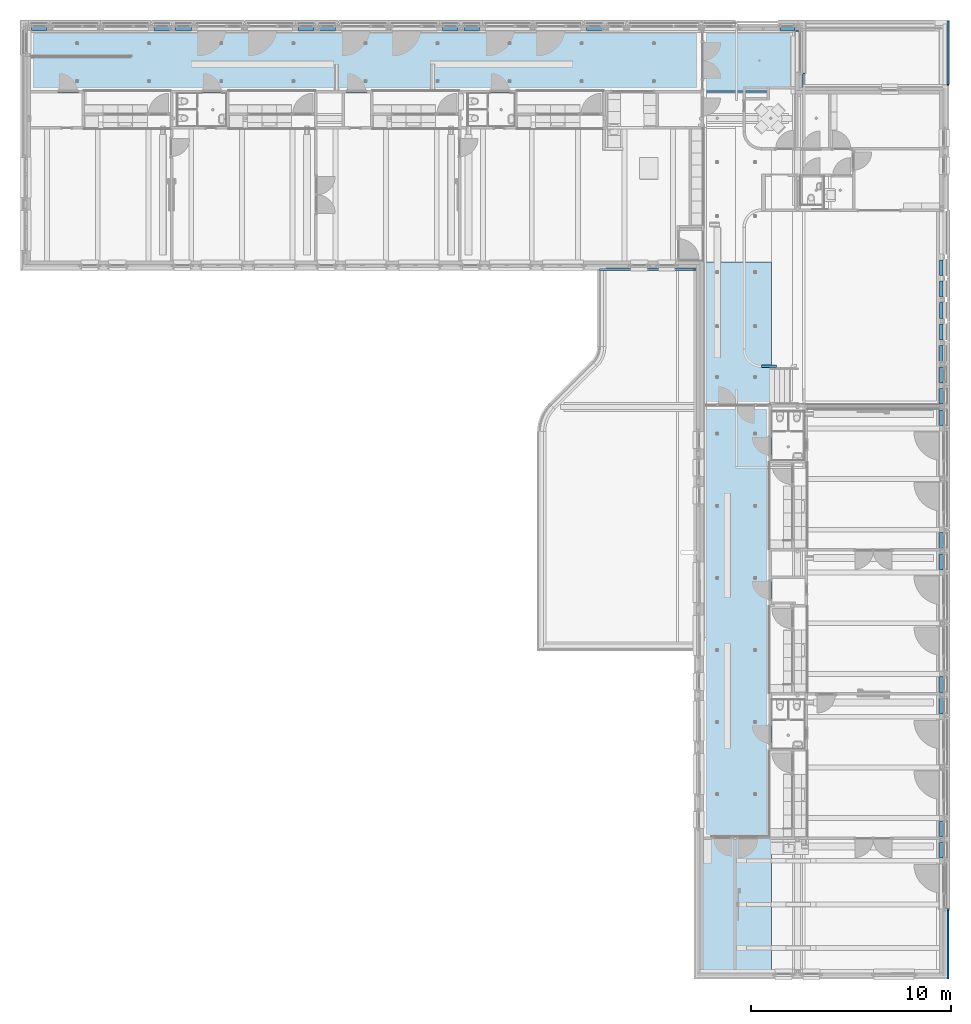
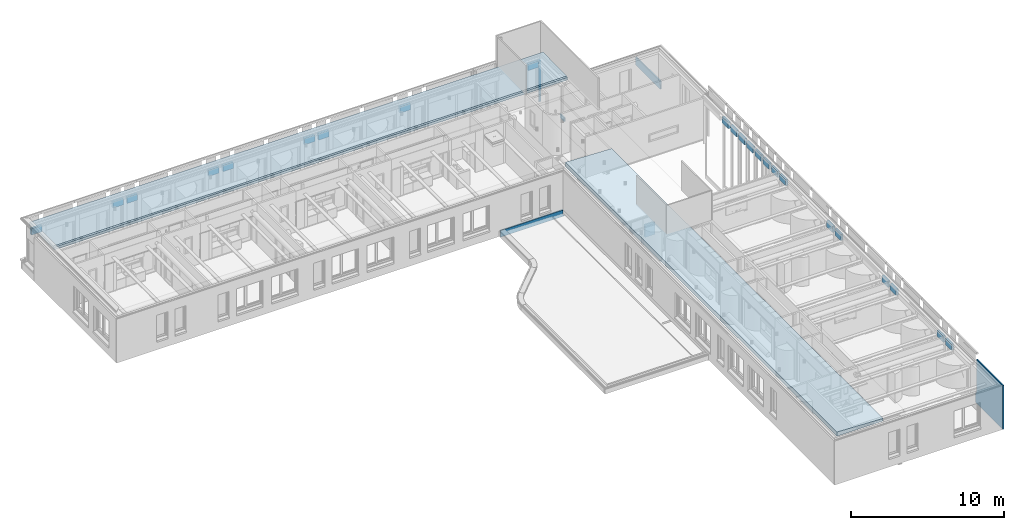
# One storey, part 60 of 128: 29 walls, 2 roofs, 1 opening.
"""IFC2X3 building model written with IfcOpenShell, lengths in millimetres."""

from ifc_helpers import new_model, entity, si_unit, converted_unit, derived_unit, direction, frame, frame_2d, origin, place, context, subcontext, project, spatial, rectangle, extrude, faceted_brep, material, layer, layer_set, layer_usage, type_object, element, save


model = new_model("IFC2X3")

# Units and contexts
model_context = context("Model", 3, precision=0.01, world=origin(), true_north=direction((6.123031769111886e-17, 1.0)))
body_context = subcontext(model_context, "Body", "Model", "MODEL_VIEW")
ifc_project = project(units=[si_unit("LENGTHUNIT", "METRE", prefix="MILLI"), si_unit("AREAUNIT", "SQUARE_METRE"), si_unit("VOLUMEUNIT", "CUBIC_METRE"), converted_unit("PLANEANGLEUNIT", "DEGREE", entity("IfcRatioMeasure", 0.017453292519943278), si_unit("PLANEANGLEUNIT", "RADIAN"), dimensions=[0, 0, 0, 0, 0, 0, 0]), si_unit("MASSUNIT", "GRAM", prefix="KILO"), derived_unit("MASSDENSITYUNIT", [(si_unit("MASSUNIT", "GRAM", prefix="KILO"), 1), (si_unit("LENGTHUNIT", "METRE"), -3)]), derived_unit("IONCONCENTRATIONUNIT", [(si_unit("MASSUNIT", "GRAM", prefix="KILO"), 1), (si_unit("LENGTHUNIT", "METRE"), -3)]), derived_unit("MOMENTOFINERTIAUNIT", [(si_unit("LENGTHUNIT", "METRE"), 4)]), si_unit("TIMEUNIT", "SECOND"), si_unit("FREQUENCYUNIT", "HERTZ"), si_unit("THERMODYNAMICTEMPERATUREUNIT", "DEGREE_CELSIUS"), derived_unit("THERMALTRANSMITTANCEUNIT", [(si_unit("MASSUNIT", "GRAM", prefix="KILO"), 1), (si_unit("THERMODYNAMICTEMPERATUREUNIT", "KELVIN"), -1), (si_unit("TIMEUNIT", "SECOND"), -3)]), derived_unit("THERMALCONDUCTANCEUNIT", [(si_unit("MASSUNIT", "GRAM", prefix="KILO"), 1), (si_unit("THERMODYNAMICTEMPERATUREUNIT", "KELVIN"), -1), (si_unit("TIMEUNIT", "SECOND"), -3), (si_unit("LENGTHUNIT", "METRE"), 1)]), derived_unit("VOLUMETRICFLOWRATEUNIT", [(si_unit("LENGTHUNIT", "METRE"), 3), (si_unit("TIMEUNIT", "SECOND"), -1)]), derived_unit("MASSFLOWRATEUNIT", [(si_unit("MASSUNIT", "GRAM", prefix="KILO"), 1), (si_unit("TIMEUNIT", "SECOND"), -1)]), derived_unit("ROTATIONALFREQUENCYUNIT", [(si_unit("TIMEUNIT", "SECOND"), -1)]), si_unit("ELECTRICCURRENTUNIT", "AMPERE"), si_unit("ELECTRICVOLTAGEUNIT", "VOLT"), si_unit("POWERUNIT", "WATT"), si_unit("FORCEUNIT", "NEWTON", prefix="KILO"), si_unit("ILLUMINANCEUNIT", "LUX"), si_unit("LUMINOUSFLUXUNIT", "LUMEN"), si_unit("LUMINOUSINTENSITYUNIT", "CANDELA"), derived_unit("USERDEFINED", [(si_unit("MASSUNIT", "GRAM", prefix="KILO"), -1), (si_unit("LENGTHUNIT", "METRE"), -2), (si_unit("TIMEUNIT", "SECOND"), 3), (si_unit("LUMINOUSFLUXUNIT", "LUMEN"), 1)]), derived_unit("USERDEFINED", [(si_unit("MASSUNIT", "GRAM", prefix="KILO"), 1), (si_unit("TIMEUNIT", "SECOND"), -3), (si_unit("LENGTHUNIT", "METRE"), 3), (si_unit("ELECTRICCURRENTUNIT", "AMPERE"), -2)]), derived_unit("SOUNDPOWERUNIT", [(si_unit("MASSUNIT", "GRAM", prefix="KILO"), 1), (si_unit("TIMEUNIT", "SECOND"), -3), (si_unit("LENGTHUNIT", "METRE"), 2)]), derived_unit("SOUNDPRESSUREUNIT", [(si_unit("MASSUNIT", "GRAM", prefix="KILO"), 1), (si_unit("LENGTHUNIT", "METRE"), -1), (si_unit("TIMEUNIT", "SECOND"), -2)]), derived_unit("LINEARVELOCITYUNIT", [(si_unit("LENGTHUNIT", "METRE"), 1), (si_unit("TIMEUNIT", "SECOND"), -1)]), si_unit("PRESSUREUNIT", "PASCAL"), derived_unit("USERDEFINED", [(si_unit("MASSUNIT", "GRAM", prefix="KILO"), 1), (si_unit("LENGTHUNIT", "METRE"), -2), (si_unit("TIMEUNIT", "SECOND"), -2)]), derived_unit("LINEARFORCEUNIT", [(si_unit("MASSUNIT", "GRAM", prefix="KILO"), 1), (si_unit("TIMEUNIT", "SECOND"), -2)]), derived_unit("PLANARFORCEUNIT", [(si_unit("MASSUNIT", "GRAM", prefix="KILO"), 1), (si_unit("LENGTHUNIT", "METRE"), -1), (si_unit("TIMEUNIT", "SECOND"), -2)]), derived_unit("SPECIFICHEATCAPACITYUNIT", [(si_unit("THERMODYNAMICTEMPERATUREUNIT", "KELVIN"), -1), (si_unit("LENGTHUNIT", "METRE"), 2), (si_unit("TIMEUNIT", "SECOND"), -2)]), derived_unit("HEATINGVALUEUNIT", [(si_unit("LENGTHUNIT", "METRE"), 2), (si_unit("TIMEUNIT", "SECOND"), -2)]), derived_unit("VAPORPERMEABILITYUNIT", [(si_unit("LENGTHUNIT", "METRE"), -1), (si_unit("TIMEUNIT", "SECOND"), 1)]), derived_unit("DYNAMICVISCOSITYUNIT", [(si_unit("MASSUNIT", "GRAM", prefix="KILO"), 1), (si_unit("TIMEUNIT", "SECOND"), -1), (si_unit("LENGTHUNIT", "METRE"), -1)]), derived_unit("THERMALEXPANSIONCOEFFICIENTUNIT", [(si_unit("THERMODYNAMICTEMPERATUREUNIT", "KELVIN"), -1)]), derived_unit("MODULUSOFELASTICITYUNIT", [(si_unit("MASSUNIT", "GRAM", prefix="KILO"), 1), (si_unit("LENGTHUNIT", "METRE"), -1), (si_unit("TIMEUNIT", "SECOND"), -2)]), derived_unit("ISOTHERMALMOISTURECAPACITYUNIT", [(si_unit("LENGTHUNIT", "METRE"), 3), (si_unit("MASSUNIT", "GRAM", prefix="KILO"), -1)]), derived_unit("MOISTUREDIFFUSIVITYUNIT", [(si_unit("TIMEUNIT", "SECOND"), -1), (si_unit("LENGTHUNIT", "METRE"), 2)])], contexts=[model_context])

# Site, building, storey
site_placement = place(None, frame((0.0, 300.0, 0.0)))
site = spatial("IfcSite", under=ifc_project, at=site_placement, Name="<Kadastrale nummers>", CompositionType="ELEMENT")
building_placement = place(site_placement, origin())
building = spatial("IfcBuilding", under=site, at=building_placement, CompositionType="ELEMENT")
storey_placement = place(building_placement, frame((0.0, 0.0, 3560.0000331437)))
storey = spatial("IfcBuildingStorey", under=building, at=storey_placement, Name="01 eerste verdieping", CompositionType="ELEMENT", Elevation=3560.0000331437)

# Walls
ifc_material_1 = material(Name="ISR_Metselwerk")
ifc_layer_1 = layer(ifc_material_1, 100.0)
ifc_layer_set_1 = layer_set([ifc_layer_1], Name="Basic Wall:21_DAT_metselwerk_100")
wall_type_1 = type_object("IfcWallType", Name="Basic Wall:21_DAT_metselwerk_100", PredefinedType="STANDARD", material=ifc_layer_set_1)
wall_1_placement = place(storey_placement, frame((48925.0, 2324.998623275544, 90.00000187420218), z_axis=(0.0, 0.0, 1.0), x_axis=(0.0, 1.0, 0.0)))
element("IfcWall", 1, at=wall_1_placement, inside=storey, type_object=wall_type_1, Name="Basic Wall:21_DAT_metselwerk_100", ObjectType="Basic Wall:21_DAT_metselwerk_100", context=body_context, shape_type="Brep", body=[
    faceted_brep([(0.0, -50.0, 0.0), (100.0, -50.0, 0.0), (3525.0013767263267, -50.0, 0.0), (3525.0013767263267, -50.0, 625.0), (3525.0013767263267, -50.0, 800.0), (3435.0013767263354, -50.0, 800.0), (3435.0013767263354, -50.0, 3500.0), (100.0, -50.0, 3500.0), (0.0, -50.0, 3500.0), (3525.0013767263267, 50.0, 0.0), (100.0, 50.0, 0.0), (0.0, 50.0, 0.0), (0.0, 50.0, 3500.0), (100.0, 50.0, 3500.0), (3435.0013767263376, 50.0, 3500.0), (3435.0013767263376, 50.0, 800.0), (3525.0013767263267, 50.0, 800.0), (3525.0013767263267, 50.0, 625.0)], [[[0, 1, 2, 3, 4, 5, 6, 7, 8]], [[9, 10, 11, 12, 13, 14, 15, 16, 17]], [[2, 1, 0, 11, 10, 9]], [[8, 7, 6, 14, 13, 12]], [[0, 8, 12, 11]], [[2, 9, 17, 16, 4, 3]], [[5, 4, 16, 15]], [[6, 5, 15, 14]]]),
])
wall_2_placement = place(storey_placement, frame((48925.0, 46950.0, 90.00000187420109), z_axis=(0.0, 0.0, 1.0), x_axis=(0.0, 1.0, 0.0)))
element("IfcWall", 2, at=wall_2_placement, inside=storey, type_object=wall_type_1, Name="Basic Wall:21_DAT_metselwerk_100", ObjectType="Basic Wall:21_DAT_metselwerk_100", context=body_context, shape_type="Brep", body=[
    faceted_brep([(0.0, -50.0, 0.0), (3225.0, -50.0, 0.0), (3225.0, -50.0, 625.0), (50.0, -50.0, 625.0), (50.0, -50.0, 299.99996498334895), (0.0, -50.0, 299.99996498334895), (0.0, 50.0, 0.0), (0.0, 50.0, 299.99996498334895), (50.0, 50.0, 299.99996498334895), (50.0, 50.0, 625.0), (3125.0, 50.0, 625.0), (3225.0, 50.0, 625.0), (3225.0, 50.0, 0.0), (3125.0, 50.0, 0.0)], [[[0, 1, 2, 3, 4, 5]], [[6, 7, 8, 9, 10, 11, 12, 13]], [[1, 0, 6, 13, 12]], [[3, 2, 11, 10, 9]], [[2, 1, 12, 11]], [[0, 5, 7, 6]], [[4, 8, 7, 5]], [[4, 3, 9, 8]]]),
])
ifc_material_2 = material(Name="ISR_Gips")
ifc_layer_2 = layer(ifc_material_2, 1.0)
ifc_material_3 = material(Name="ISR_Binnenwand")
ifc_layer_3 = layer(ifc_material_3, 123.0)
ifc_layer_4 = layer(ifc_material_2, 1.0)
ifc_layer_set_2 = layer_set([ifc_layer_2, ifc_layer_3, ifc_layer_4], Name="Basic Wall:22_DAT_binnenwand_125")
wall_type_2 = type_object("IfcWallType", Name="Basic Wall:22_DAT_binnenwand_125", PredefinedType="STANDARD", material=ifc_layer_set_2)
wall_3_placement = place(storey_placement, frame((40360.0, 32932.49999999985, 90.00000187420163), z_axis=(0.0, 0.0, 1.0), x_axis=(-1.0, 0.0, 0.0)))
element("IfcWall", 3, at=wall_3_placement, inside=storey, type_object=wall_type_2, Name="Basic Wall:22_DAT_binnenwand_125", ObjectType="Basic Wall:22_DAT_binnenwand_125", context=body_context, shape_type="Brep", body=[
    faceted_brep([(0.0, -62.50000000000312, 0.0), (52.14919277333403, -62.50000000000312, 0.0), (760.0, -62.50000000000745, 0.0), (760.0, -62.50000000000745, 1000.0), (214.26406002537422, -62.50000000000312, 1000.0), (167.65194200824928, -62.50000000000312, 996.3567283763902), (122.17196137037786, -62.50000000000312, 985.5154030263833), (78.92875759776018, -62.50000000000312, 967.7393432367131), (38.97264227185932, -62.50000000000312, 943.4603024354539), (0.0, -62.50000000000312, 915.3999999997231), (214.26406002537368, 62.499999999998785, 1000.0), (760.0, 62.49999999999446, 1000.0), (760.0, 62.49999999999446, 0.0), (0.0, 62.499999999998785, 0.0), (0.0, 62.499999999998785, 915.3999999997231), (38.972642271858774, 62.499999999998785, 943.4603024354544), (78.92875759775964, 62.499999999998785, 967.7393432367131), (122.17196137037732, 62.499999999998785, 985.5154030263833), (167.65194200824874, 62.499999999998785, 996.3567283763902), (760.0, -37.50000000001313, 0.0)], [[[0, 1, 2, 3, 4, 5, 6, 7, 8, 9]], [[10, 11, 12, 13, 14, 15, 16, 17, 18]], [[1, 0, 13, 12, 19, 2]], [[3, 2, 19, 12, 11]], [[4, 3, 11, 10]], [[0, 9, 14, 13]], [[18, 17, 6, 5]], [[18, 5, 4, 10]], [[16, 15, 8, 7]], [[16, 7, 6, 17]], [[9, 8, 15, 14]]]),
])
ifc_material_4 = material(Name="DAT_Gasbeton")
ifc_layer_5 = layer(ifc_material_4, 100.0)
ifc_layer_set_3 = layer_set([ifc_layer_5], Name="Basic Wall:21_DAT_gasbeton_100")
ifc_layer_usage_1 = layer_usage(ifc_layer_set_3, "AXIS2", "POSITIVE", -50.0)
wall_type_3 = type_object("IfcWallType", Name="Basic Wall:21_DAT_gasbeton_100", PredefinedType="STANDARD", material=ifc_layer_set_3)
wall_4_placement = place(storey_placement, frame((41725.0, 47000.0, 0.0), z_axis=(0.0, 0.0, 1.0), x_axis=(0.0, 1.0, 0.0)))
element("IfcWallStandardCase", 4, at=wall_4_placement, inside=storey, type_object=wall_type_3, material=ifc_layer_usage_1, Name="Basic Wall:21_DAT_gasbeton_100", ObjectType="Basic Wall:21_DAT_gasbeton_100", context=body_context, shape_type="SweptSolid", body=[
    extrude(rectangle(XDim=565.9999999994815, YDim=99.9999999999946, at=frame_2d((282.99999999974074, 1.2612133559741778e-12), x_axis=(-1.0, 0.0))), origin(), (0.0, 0.0, 1.0), 290.0000000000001),
])
wall_5_placement = place(storey_placement, frame((31525.03691673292, 37775.0, 0.0)))
element("IfcWall", 5, at=wall_5_placement, inside=storey, type_object=wall_type_3, Name="Basic Wall:21_DAT_gasbeton_100", ObjectType="Basic Wall:21_DAT_gasbeton_100", context=body_context, shape_type="Brep", body=[
    faceted_brep([(0.0, -50.0, 514.9999668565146), (0.0, -50.0, 0.0), (4699.963083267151, -50.0, 0.0), (4799.96308326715, -50.0, 0.0), (4799.96308326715, -50.0, 90.00000187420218), (4699.963083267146, -50.0, 90.00000187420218), (4699.963083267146, -50.0, 514.9999668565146), (309.0, -50.0, 514.9999668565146), (200.0, -50.0, 514.9999668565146), (40.0, -50.0, 514.9999668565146), (0.0, 50.0, 0.0), (0.0, 50.0, 90.00000187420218), (0.0, 50.0, 514.9999668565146), (4699.963083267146, 50.0, 514.9999668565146), (4699.963083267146, 50.0, 90.00000187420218), (4799.963083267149, 50.0, 90.00000187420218), (4799.963083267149, 50.0, 0.0)], [[[0, 1, 2, 3, 4, 5, 6, 7, 8, 9]], [[10, 11, 12, 13, 14, 15, 16]], [[3, 2, 1, 10, 16]], [[0, 9, 8, 7, 6, 13, 12]], [[4, 3, 16, 15]], [[6, 5, 14, 13]], [[14, 5, 4, 15]], [[0, 12, 11, 10, 1]]]),
])

# Wall, opening
ifc_layer_6 = layer(ifc_material_2, 12.5)
ifc_layer_7 = layer(ifc_material_2, 12.5)
ifc_material_5 = material(Name="ISR_Dak_isolatie(198)")
ifc_layer_8 = layer(ifc_material_5, 140.0)
ifc_material_6 = material(Name="ISR_Multiplex")
ifc_layer_9 = layer(ifc_material_6, 10.0)
ifc_layer_set_4 = layer_set([ifc_layer_6, ifc_layer_7, ifc_layer_8, ifc_layer_9], Name="Basic Wall:21_DAT_Hekwerk 175")
ifc_layer_usage_2 = layer_usage(ifc_layer_set_4, "AXIS2", "POSITIVE", -87.5)
wall_type_4 = type_object("IfcWallType", Name="Basic Wall:21_DAT_Hekwerk 175", PredefinedType="STANDARD", material=ifc_layer_set_4)
wall_6_placement = place(storey_placement, frame((40516.0, 49787.49999999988, 2829.999966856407)))
wall_6 = element("IfcWallStandardCase", 6, at=wall_6_placement, inside=storey, type_object=wall_type_4, material=ifc_layer_usage_2, Name="Basic Wall:21_DAT_Hekwerk 175", ObjectType="Basic Wall:21_DAT_Hekwerk 175", context=body_context, shape_type="SweptSolid", body=[
    extrude(rectangle(XDim=772.9999999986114, YDim=175.00000000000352, at=frame_2d((386.4999999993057, -4.334310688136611e-12), x_axis=(1.0, 0.0))), origin(), (0.0, 0.0, 1.0), 500.0000350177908),
])
opening_placement = place(wall_6_placement, origin())
element("IfcOpeningElement", 7, at=opening_placement, cuts=wall_6, Name="Basic Wall:21_DAT_Hekwerk 175", ObjectType="Opening", context=body_context, shape_type="SweptSolid", body=[
    extrude(rectangle(XDim=1929.9999649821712, YDim=789.9999999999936, at=frame_2d((0.0, 5.684341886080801e-13), x_axis=(0.0, 1.0))), frame((378.0, -239.90000000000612, -964.9999824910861), z_axis=(0.0, 1.0, 0.0), x_axis=(-1.0, 0.0, 0.0)), (0.0, 0.0, 1.0), 479.80000000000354),
])

# Walls
wall_7_placement = place(storey_placement, frame((48587.500000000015, 10230.0, 2829.999966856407), z_axis=(0.0, 0.0, 1.0), x_axis=(0.0, -1.0, 0.0)))
element("IfcWallStandardCase", 8, at=wall_7_placement, inside=storey, type_object=wall_type_4, material=ifc_layer_usage_2, Name="Basic Wall:21_DAT_Hekwerk 175", ObjectType="Basic Wall:21_DAT_Hekwerk 175", context=body_context, shape_type="SweptSolid", body=[
    extrude(rectangle(XDim=790.0000000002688, YDim=174.99999999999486, at=frame_2d((395.0000000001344, 0.0), x_axis=(-1.0, 0.0))), origin(), (0.0, 0.0, 1.0), 500.000064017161),
])
for number, where, z_axis, x_axis, name in (
    (9, (48587.500000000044, 31830.0, 2829.999966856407), (0.0, 0.0, 1.0), (0.0, -1.0, 0.0), "Basic Wall:21_DAT_Hekwerk 175"),
    (10, (48587.500000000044, 30760.0, 2829.999966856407), (0.0, 0.0, 1.0), (0.0, -1.0, 0.0), "Basic Wall:21_DAT_Hekwerk 175"),
    (11, (48587.50000000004, 24630.0, 2829.999966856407), (0.0, 0.0, 1.0), (0.0, -1.0, 0.0), "Basic Wall:21_DAT_Hekwerk 175"),
    (12, (48587.50000000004, 23560.0, 2829.999966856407), (0.0, 0.0, 1.0), (0.0, -1.0, 0.0), "Basic Wall:21_DAT_Hekwerk 175"),
    (13, (48587.50000000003, 17430.0, 2829.999966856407), (0.0, 0.0, 1.0), (0.0, -1.0, 0.0), "Basic Wall:21_DAT_Hekwerk 175"),
    (14, (48587.50000000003, 16360.0, 2829.999966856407), (0.0, 0.0, 1.0), (0.0, -1.0, 0.0), "Basic Wall:21_DAT_Hekwerk 175"),
    (15, (48587.500000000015, 9160.0, 2829.999966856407), (0.0, 0.0, 1.0), (0.0, -1.0, 0.0), "Basic Wall:21_DAT_Hekwerk 175"),
):
    element("IfcWallStandardCase", number, at=place(storey_placement, frame(where, z_axis=z_axis, x_axis=x_axis)), inside=storey, type_object=wall_type_4, material=ifc_layer_usage_2, Name=name, ObjectType="Basic Wall:21_DAT_Hekwerk 175", context=body_context, shape_type="SweptSolid", body=[
        extrude(rectangle(XDim=790.0000000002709, YDim=174.99999999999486, at=frame_2d((395.00000000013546, 0.0), x_axis=(-1.0, 0.0))), origin(), (0.0, 0.0, 1.0), 500.000064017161),
    ])
for number, where, name in (
    (16, (30870.0, 49787.499999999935, 2829.999966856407), "Basic Wall:21_DAT_Hekwerk 175"),
    (17, (24740.0, 49787.49999999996, 2829.999966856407), "Basic Wall:21_DAT_Hekwerk 175"),
    (18, (23670.0, 49787.49999999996, 2829.999966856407), "Basic Wall:21_DAT_Hekwerk 175"),
    (19, (17540.0, 49787.499999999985, 2829.999966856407), "Basic Wall:21_DAT_Hekwerk 175"),
    (20, (16470.0, 49787.49999999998, 2829.999966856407), "Basic Wall:21_DAT_Hekwerk 175"),
    (21, (10340.0, 49787.500000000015, 2829.999966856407), "Basic Wall:21_DAT_Hekwerk 175"),
):
    element("IfcWallStandardCase", number, at=place(storey_placement, frame(where)), inside=storey, type_object=wall_type_4, material=ifc_layer_usage_2, Name=name, ObjectType="Basic Wall:21_DAT_Hekwerk 175", context=body_context, shape_type="SweptSolid", body=[
        extrude(rectangle(XDim=790.0000000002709, YDim=174.99999999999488, at=frame_2d((395.00000000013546, 3.680611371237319e-12), x_axis=(-1.0, 0.0))), origin(), (0.0, 0.0, 1.0), 500.000064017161),
    ])
wall_8_placement = place(storey_placement, frame((9270.0, 49787.50000000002, 2829.999966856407)))
element("IfcWallStandardCase", 22, at=wall_8_placement, inside=storey, type_object=wall_type_4, material=ifc_layer_usage_2, Name="Basic Wall:21_DAT_Hekwerk 175", ObjectType="Basic Wall:21_DAT_Hekwerk 175", context=body_context, shape_type="SweptSolid", body=[
    extrude(rectangle(XDim=790.0000000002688, YDim=174.99999999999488, at=frame_2d((395.0000000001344, 3.680611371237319e-12), x_axis=(-1.0, 0.0))), origin(), (0.0, 0.0, 1.0), 500.000064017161),
])
wall_9_placement = place(storey_placement, frame((3140.0, 49787.50000000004, 2829.999966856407)))
element("IfcWallStandardCase", 23, at=wall_9_placement, inside=storey, type_object=wall_type_4, material=ifc_layer_usage_2, Name="Basic Wall:21_DAT_Hekwerk 175", ObjectType="Basic Wall:21_DAT_Hekwerk 175", context=body_context, shape_type="SweptSolid", body=[
    extrude(rectangle(XDim=790.0000000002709, YDim=174.99999999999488, at=frame_2d((395.00000000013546, 3.680611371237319e-12), x_axis=(-1.0, 0.0))), origin(), (0.0, 0.0, 1.0), 500.000064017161),
])
for number, where, z_axis, x_axis, name in (
    (24, (48587.500000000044, 32900.0, 2829.999966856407), (0.0, 0.0, 1.0), (0.0, -1.0, 0.0), "Basic Wall:21_DAT_Hekwerk 175"),
    (25, (48587.500000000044, 33970.0, 2829.999966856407), (0.0, 0.0, 1.0), (0.0, -1.0, 0.0), "Basic Wall:21_DAT_Hekwerk 175"),
    (26, (48587.500000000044, 35040.0, 2829.999966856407), (0.0, 0.0, 1.0), (0.0, -1.0, 0.0), "Basic Wall:21_DAT_Hekwerk 175"),
    (27, (48587.500000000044, 36110.0, 2829.999966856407), (0.0, 0.0, 1.0), (0.0, -1.0, 0.0), "Basic Wall:21_DAT_Hekwerk 175"),
    (28, (48587.500000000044, 37180.0, 2829.999966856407), (0.0, 0.0, 1.0), (0.0, -1.0, 0.0), "Basic Wall:21_DAT_Hekwerk 175"),
    (29, (48587.500000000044, 38250.0, 2829.999966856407), (0.0, 0.0, 1.0), (0.0, -1.0, 0.0), "Basic Wall:21_DAT_Hekwerk 175"),
):
    element("IfcWallStandardCase", number, at=place(storey_placement, frame(where, z_axis=z_axis, x_axis=x_axis)), inside=storey, type_object=wall_type_4, material=ifc_layer_usage_2, Name=name, ObjectType="Basic Wall:21_DAT_Hekwerk 175", context=body_context, shape_type="SweptSolid", body=[
        extrude(rectangle(XDim=790.0000000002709, YDim=174.99999999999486, at=frame_2d((395.00000000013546, 0.0), x_axis=(-1.0, 0.0))), origin(), (0.0, 0.0, 1.0), 500.000064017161),
    ])
wall_10_placement = place(storey_placement, frame((41387.49999999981, 49875.0, 100.00000187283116), z_axis=(0.0, 0.0, 1.0), x_axis=(0.0, -1.0, 0.0)))
element("IfcWall", 30, at=wall_10_placement, inside=storey, type_object=wall_type_4, Name="Basic Wall:21_DAT_Hekwerk 175", ObjectType="Basic Wall:21_DAT_Hekwerk 175", context=body_context, shape_type="Brep", body=[
    faceted_brep([(175.0, -87.5000000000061, 0.0), (215.0, -87.5000000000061, 0.0), (215.0, -87.5000000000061, 3230.0000290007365), (175.0, -87.5000000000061, 3230.0000290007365), (0.0, -87.5000000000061, 3230.0000290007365), (0.0, -87.5000000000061, 2720.0), (175.0, -87.5000000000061, 2720.0), (175.0, 87.49999999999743, 0.0), (175.0, 87.49999999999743, 2720.0), (0.0, 87.49999999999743, 2720.0), (0.0, 87.49999999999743, 3230.0000290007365), (215.0, 87.49999999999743, 3230.0000290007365), (215.0, 87.49999999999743, 0.0)], [[[0, 1, 2, 3, 4, 5, 6]], [[7, 8, 9, 10, 11, 12]], [[1, 0, 7, 12]], [[2, 1, 12, 11]], [[4, 3, 2, 11, 10]], [[5, 9, 8, 6]], [[0, 6, 8, 7]], [[5, 4, 10, 9]]]),
])

# Roofs
ifc_material_7 = material(Name="ISR_Bitumen")
ifc_layer_10 = layer(ifc_material_7, 2.0)
ifc_layer_11 = layer(ifc_material_7, 2.0)
ifc_material_8 = material(Name="ISR_Dak_isolatie")
ifc_layer_12 = layer(ifc_material_8, 200.0)
ifc_layer_set_5 = layer_set([ifc_layer_10, ifc_layer_11, ifc_layer_12], Name="Basic Roof:300_27_dakisolatie+dakleer")
roof_1_placement = place(storey_placement, frame((3034.0, 46575.0, 3590.0)))
element("IfcRoof", 31, at=roof_1_placement, inside=storey, material=ifc_layer_set_5, Name="Basic Roof:300_27_dakisolatie+dakleer", ObjectType="Basic Roof:300_27_dakisolatie+dakleer", ShapeType="NOTDEFINED", context=body_context, shape_type="Brep", body=[
    faceted_brep([(0.0, 3191.0, 0.0), (38641.0, 3191.0, 0.0), (38641.0, 0.0, 0.0), (0.0, 0.0, 0.0), (38641.0, 3191.0, 289.9999649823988), (0.0, 3191.0, 289.9999649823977), (0.0, 0.0, 204.0), (0.0, 100.0, 249.99996498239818), (38641.0, 0.0, 204.0), (38641.0, 100.0, 249.9999649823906)], [[[0, 1, 2, 3]], [[4, 1, 0, 5]], [[5, 0, 3, 6, 7]], [[6, 3, 2, 8]], [[8, 2, 1, 4, 9]], [[6, 8, 9, 7]], [[5, 7, 9, 4]]]),
])
roof_2_placement = place(storey_placement, frame((36634.0, 2734.0, 3590.0)))
element("IfcRoof", 32, at=roof_2_placement, inside=storey, material=ifc_layer_set_5, Name="Basic Roof:300_27_dakisolatie+dakleer", ObjectType="Basic Roof:300_27_dakisolatie+dakleer", ShapeType="NOTDEFINED", context=body_context, shape_type="Brep", body=[
    faceted_brep([(0.0, 35400.0, 0.0), (3480.993398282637, 35400.0, 0.0), (3480.993398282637, 0.0, 0.0), (0.0, 0.0, 0.0), (3480.993398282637, 35400.0, 204.0), (0.0, 35400.0, 329.99996498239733), (0.0, 0.0, 329.99996498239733), (3480.993398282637, 0.0, 204.0)], [[[0, 1, 2, 3]], [[4, 1, 0, 5]], [[5, 0, 3, 6]], [[6, 3, 2, 7]], [[7, 2, 1, 4]], [[5, 6, 7, 4]]]),
])

save(model, "model.ifc")
